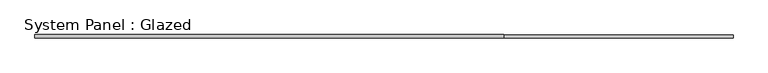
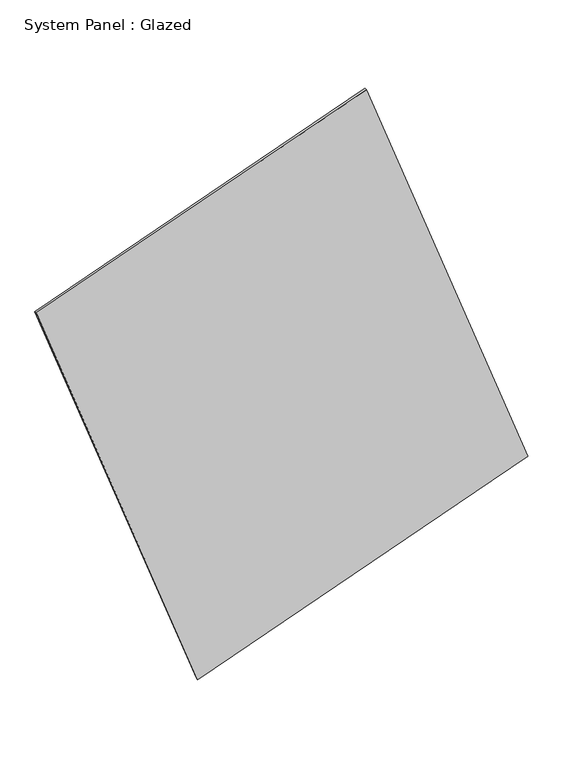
"""IFC4 building model written with IfcOpenShell, lengths in millimetres: plate geometry, System Panel : Glazed."""

from ifc_helpers import new_model, si_unit, frame, origin, place, context, project, spatial, polyline, outline, extrude, source, transform, mapped, element, save


def system_panel_glazed_47bd4e19(model_context):
    return source(origin(), model_context, "Body", "SweptSolid", [
        extrude(outline(polyline([(0.0, -347.8075923), (495.9291086, 1014.7467401), (2328.3297192, 347.8074606), (1832.4006585, -1014.7467401), (0.0, -347.8075923)])), frame((0.0, -5.0, 0.0), z_axis=(0.0, 1.0, 0.0), x_axis=(0.0, 0.0, 1.0)), (0.0, 0.0, 1.0), 10.0),
    ])


if __name__ == "__main__":
    model = new_model("IFC4")
    model_context = context("Model", 3, world=origin())
    ifc_project = project(units=[si_unit("LENGTHUNIT", "METRE", prefix="MILLI")], contexts=[model_context])
    site = spatial("IfcSite", under=ifc_project)
    building = spatial("IfcBuilding", under=site)
    placement = place(None, origin())
    system_panel_glazed_shape = system_panel_glazed_47bd4e19(model_context)
    element("IfcPlate", 1, ObjectType="System Panel : Glazed", at=placement, inside=building, context=model_context, shape_type="MappedRepresentation", body=[
        mapped(system_panel_glazed_shape, transform((0.0, 0.0, 0.0), x_axis=(1.0, 0.0, 0.0), y_axis=(0.0, 1.0, 0.0), z_axis=(0.0, 0.0, 1.0))),
    ])
    save(model, "model.ifc")
